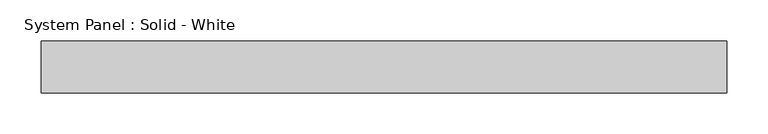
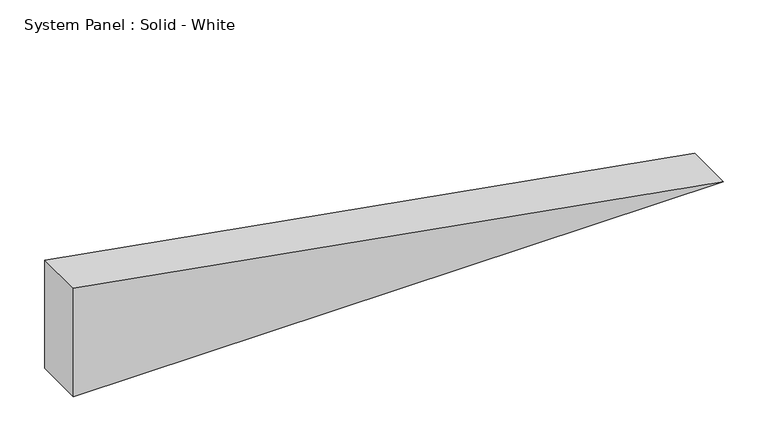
"""IFC4 building model written with IfcOpenShell, lengths in millimetres: plate geometry, System Panel : Solid - White."""

from ifc_helpers import new_model, si_unit, frame, origin, place, context, project, spatial, polyline, outline, extrude, source, transform, mapped, element, save


def system_panel_solid_white_a08d68a6(model_context):
    return source(origin(), model_context, "Body", "SweptSolid", [
        extrude(outline(polyline([(0.0, -417.8690373), (0.0, 417.8690373), (147.3631713, -417.8690373), (0.0, -417.8690373)])), frame((0.0, -19.05, 0.0), z_axis=(0.0, 1.0, 0.0), x_axis=(0.0, 0.0, 1.0)), (0.0, 0.0, 1.0), 63.5),
    ])


if __name__ == "__main__":
    model = new_model("IFC4")
    model_context = context("Model", 3, world=origin())
    ifc_project = project(units=[si_unit("LENGTHUNIT", "METRE", prefix="MILLI")], contexts=[model_context])
    site = spatial("IfcSite", under=ifc_project)
    building = spatial("IfcBuilding", under=site)
    placement = place(None, origin())
    system_panel_solid_white_shape = system_panel_solid_white_a08d68a6(model_context)
    element("IfcPlate", 1, ObjectType="System Panel : Solid - White", at=placement, inside=building, context=model_context, shape_type="MappedRepresentation", body=[
        mapped(system_panel_solid_white_shape, transform((0.0, 0.0, 0.0), x_axis=(1.0, 0.0, 0.0), y_axis=(0.0, 1.0, 0.0), z_axis=(0.0, 0.0, 1.0))),
    ])
    save(model, "model.ifc")
